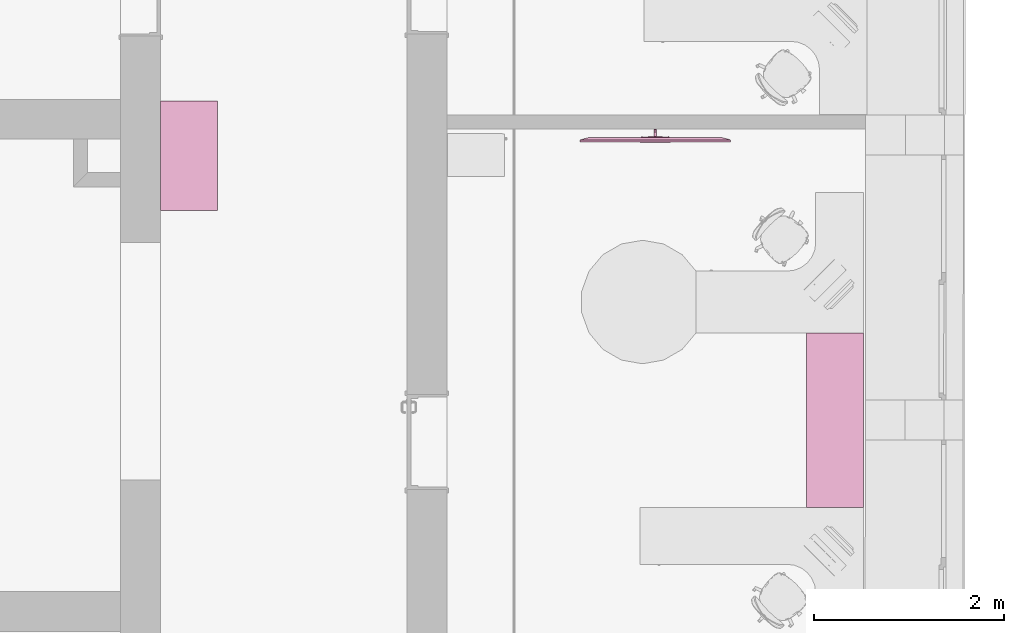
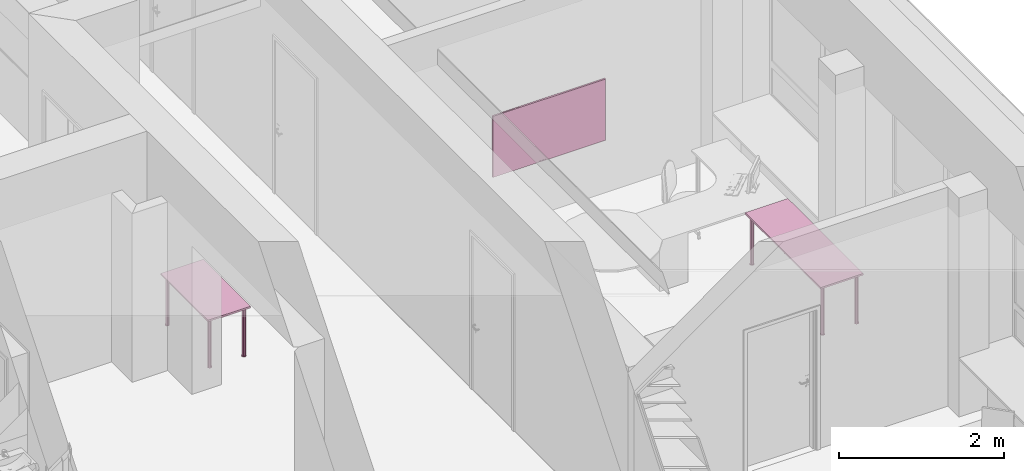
# One storey, part 149 of 194: 3 furnishings.
"""IFC2X3 building model written with IfcOpenShell, lengths in millimetres."""

from ifc_helpers import new_model, entity, si_unit, converted_unit, derived_unit, money_unit, direction, frame, origin_with_axes, place, context, subcontext, project, spatial, faceted_brep, type_object, element, save


model = new_model("IFC2X3")

# Units and contexts
model_context = context("Model", 3, precision=1e-05, world=origin_with_axes(), true_north=direction((0.0, 1.0)))
body_context = subcontext(model_context, "Body", "Model", "MODEL_VIEW")
ifc_project = project(units=[si_unit("LENGTHUNIT", "METRE", prefix="MILLI"), si_unit("AREAUNIT", "SQUARE_METRE"), si_unit("VOLUMEUNIT", "CUBIC_METRE"), converted_unit("PLANEANGLEUNIT", "DEGREE", entity("IfcPlaneAngleMeasure", 0.0174532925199), si_unit("PLANEANGLEUNIT", "RADIAN"), dimensions=[0, 0, 0, 0, 0, 0, 0]), si_unit("SOLIDANGLEUNIT", "STERADIAN"), money_unit("EUR"), converted_unit("TIMEUNIT", "Year", entity("IfcTimeMeasure", 31556926.0), si_unit("TIMEUNIT", "SECOND"), dimensions=[0, 0, 1, 0, 0, 0, 0]), si_unit("MASSUNIT", "GRAM", prefix="KILO"), si_unit("THERMODYNAMICTEMPERATUREUNIT", "DEGREE_CELSIUS"), si_unit("LUMINOUSINTENSITYUNIT", "LUMEN"), si_unit("ENERGYUNIT", "JOULE", prefix="MEGA"), derived_unit("THERMALCONDUCTANCEUNIT", [(si_unit("POWERUNIT", "WATT"), 1), (si_unit("LENGTHUNIT", "METRE"), -1), (si_unit("THERMODYNAMICTEMPERATUREUNIT", "KELVIN"), -1)]), derived_unit("SPECIFICHEATCAPACITYUNIT", [(si_unit("ENERGYUNIT", "JOULE"), 1), (si_unit("MASSUNIT", "GRAM", prefix="KILO"), -1), (si_unit("THERMODYNAMICTEMPERATUREUNIT", "KELVIN"), -1)]), derived_unit("MASSDENSITYUNIT", [(si_unit("MASSUNIT", "GRAM", prefix="KILO"), 1), (si_unit("VOLUMEUNIT", "CUBIC_METRE"), -1)])], contexts=[model_context])

# Site, building, storey
site_placement = place(None, origin_with_axes())
site = spatial("IfcSite", under=ifc_project, at=site_placement, Name="Site", CompositionType="ELEMENT")
building_placement = place(site_placement, origin_with_axes())
building = spatial("IfcBuilding", under=site, at=building_placement, Name="Building", CompositionType="ELEMENT")
storey_placement = place(building_placement, frame((0.0, 0.0, 3000.0), z_axis=(0.0, 0.0, 1.0), x_axis=(1.0, 0.0, 0.0)))
storey = spatial("IfcBuildingStorey", under=building, at=storey_placement, Name="2 KORRUS", CompositionType="ELEMENT", Elevation=3000.0)

# Furnishings
furnishing_element_type_1 = type_object("IfcFurnishingElementType", Name="Flat Panel TV 22")
furnishing_1_placement = place(storey_placement, frame((41559.6671175, 13452.4926833, 886.409781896), z_axis=(0.0, 0.0, 1.0), x_axis=(0.999999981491, 0.000192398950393, 0.0)))
element("IfcFurnishingElement", 1, at=furnishing_1_placement, inside=storey, type_object=furnishing_element_type_1, Name="FU - 002", context=body_context, shape_type="Brep", body=[
    faceted_brep([(716.344350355, 60.0, 528.881197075), (716.344350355, 50.0, 528.881197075), (866.344350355, 50.0, 528.881197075), (866.344350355, 60.0, 528.881197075), (716.344350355, 60.0, 378.881197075), (716.344350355, 50.0, 378.881197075), (866.344350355, 50.0, 378.881197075), (866.344350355, 60.0, 378.881197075)], [[[0, 1, 2, 3]], [[4, 5, 1, 0]], [[1, 5, 6, 2]], [[3, 2, 6, 7]], [[0, 3, 7, 4]], [[7, 6, 5, 4]]]),
    faceted_brep([(641.344350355, 55.0, 358.881197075), (641.344350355, 50.0, 358.881197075), (641.344350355, 50.0, 378.881197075), (641.344350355, 55.0, 378.881197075), (941.344350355, 55.0, 358.881197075), (941.344350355, 50.0, 358.881197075), (941.344350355, 50.0, 378.881197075), (941.344350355, 55.0, 378.881197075)], [[[0, 1, 2, 3]], [[4, 5, 1, 0]], [[1, 5, 6, 2]], [[3, 2, 6, 7]], [[0, 3, 7, 4]], [[7, 6, 5, 4]]]),
    faceted_brep([(641.344350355, 55.0, 548.881197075), (641.344350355, 55.0, 528.881197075), (641.344350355, 50.0, 528.881197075), (641.344350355, 50.0, 548.881197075), (941.344350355, 55.0, 548.881197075), (941.344350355, 55.0, 528.881197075), (941.344350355, 50.0, 528.881197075), (941.344350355, 50.0, 548.881197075)], [[[0, 1, 2, 3]], [[0, 4, 5, 1]], [[1, 5, 6, 2]], [[3, 2, 6, 7]], [[4, 0, 3, 7]], [[5, 4, 7, 6]]]),
    faceted_brep([(656.344350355, 60.0, 341.381197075), (646.344350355, 60.0, 341.381197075), (646.344350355, 60.0, 566.381197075), (656.344350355, 60.0, 566.381197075), (656.344350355, 50.0, 303.881197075), (646.344350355, 50.0, 303.881197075), (646.344350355, 50.0, 603.881197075), (656.344350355, 50.0, 603.881197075)], [[[0, 1, 2, 3]], [[4, 5, 1, 0]], [[1, 5, 6, 2]], [[3, 2, 6, 7]], [[0, 3, 7, 4]], [[7, 6, 5, 4]]]),
    faceted_brep([(926.344350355, 60.0, 341.381197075), (926.344350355, 60.0, 566.381197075), (936.344350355, 60.0, 566.381197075), (936.344350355, 60.0, 341.381197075), (926.344350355, 50.0, 303.881197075), (926.344350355, 50.0, 603.881197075), (936.344350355, 50.0, 603.881197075), (936.344350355, 50.0, 303.881197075)], [[[0, 1, 2, 3]], [[0, 4, 5, 1]], [[1, 5, 6, 2]], [[3, 2, 6, 7]], [[4, 0, 3, 7]], [[5, 4, 7, 6]]]),
    faceted_brep([(803.844350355, 93.75, 466.381197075), (803.844350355, 93.75, 416.381197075), (803.090508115, 98.0252517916, 416.381197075), (803.090508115, 98.0252517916, 466.381197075), (803.090508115, 89.4747482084, 466.381197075), (803.090508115, 89.4747482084, 416.381197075), (800.919905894, 85.7151548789, 416.381197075), (797.594350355, 82.9246824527, 416.381197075), (793.514952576, 81.4399030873, 416.381197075), (789.173748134, 81.4399030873, 416.381197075), (785.094350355, 82.9246824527, 416.381197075), (781.768794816, 85.7151548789, 416.381197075), (779.598192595, 89.4747482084, 416.381197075), (778.844350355, 93.75, 416.381197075), (779.598192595, 98.0252517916, 416.381197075), (781.768794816, 101.784845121, 416.381197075), (785.094350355, 104.575317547, 416.381197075), (789.173748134, 106.060096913, 416.381197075), (793.514952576, 106.060096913, 416.381197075), (797.594350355, 104.575317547, 416.381197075), (800.919905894, 101.784845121, 416.381197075), (800.919905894, 101.784845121, 466.381197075), (797.594350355, 104.575317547, 466.381197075), (793.514952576, 106.060096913, 466.381197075), (789.173748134, 106.060096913, 466.381197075), (785.094350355, 104.575317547, 466.381197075), (781.768794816, 101.784845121, 466.381197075), (779.598192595, 98.0252517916, 466.381197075), (778.844350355, 93.75, 466.381197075), (779.598192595, 89.4747482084, 466.381197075), (781.768794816, 85.7151548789, 466.381197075), (785.094350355, 82.9246824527, 466.381197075), (789.173748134, 81.4399030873, 466.381197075), (793.514952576, 81.4399030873, 466.381197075), (797.594350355, 82.9246824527, 466.381197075), (800.919905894, 85.7151548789, 466.381197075)], [[[0, 1, 2, 3]], [[4, 5, 1, 0]], [[1, 5, 6, 7, 8, 9, 10, 11, 12, 13, 14, 15, 16, 17, 18, 19, 20, 2]], [[3, 2, 20, 21]], [[0, 3, 21, 22, 23, 24, 25, 26, 27, 28, 29, 30, 31, 32, 33, 34, 35, 4]], [[35, 6, 5, 4]], [[34, 7, 6, 35]], [[33, 8, 7, 34]], [[32, 9, 8, 33]], [[31, 10, 9, 32]], [[30, 11, 10, 31]], [[29, 12, 11, 30]], [[28, 13, 12, 29]], [[27, 14, 13, 28]], [[26, 15, 14, 27]], [[25, 16, 15, 26]], [[24, 17, 16, 25]], [[23, 18, 17, 24]], [[22, 19, 18, 23]], [[21, 20, 19, 22]]]),
    faceted_brep([(803.844350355, 93.75, 441.381197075), (803.844350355, 93.75, 466.381197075), (803.844350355, 60.0, 466.381197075), (803.844350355, 60.0, 441.381197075), (803.090508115, 89.4747482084, 466.381197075), (803.090508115, 89.4747482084, 441.381197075), (779.598192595, 89.4747482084, 466.381197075), (778.844350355, 93.75, 466.381197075), (778.844350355, 60.0, 466.381197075), (800.919905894, 85.7151548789, 466.381197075), (797.594350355, 82.9246824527, 466.381197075), (793.514952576, 81.4399030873, 466.381197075), (789.173748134, 81.4399030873, 466.381197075), (785.094350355, 82.9246824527, 466.381197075), (781.768794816, 85.7151548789, 466.381197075), (778.844350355, 60.0, 441.381197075), (778.844350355, 93.75, 441.381197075), (779.598192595, 89.4747482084, 441.381197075), (781.768794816, 85.7151548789, 441.381197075), (785.094350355, 82.9246824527, 441.381197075), (789.173748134, 81.4399030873, 441.381197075), (793.514952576, 81.4399030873, 441.381197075), (797.594350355, 82.9246824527, 441.381197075), (800.919905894, 85.7151548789, 441.381197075)], [[[0, 1, 2, 3]], [[4, 1, 0, 5]], [[6, 7, 8, 2, 1, 4, 9, 10, 11, 12, 13, 14]], [[3, 2, 8, 15]], [[5, 0, 3, 15, 16, 17, 18, 19, 20, 21, 22, 23]], [[9, 4, 5, 23]], [[7, 6, 17, 16]], [[7, 16, 15, 8]], [[10, 9, 23, 22]], [[11, 10, 22, 21]], [[12, 11, 21, 20]], [[13, 12, 20, 19]], [[14, 13, 19, 18]], [[6, 14, 18, 17]]]),
    faceted_brep([(800.919905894, 101.784845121, 441.381197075), (803.090508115, 98.0252517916, 441.381197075), (803.844350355, 93.75, 441.381197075), (803.844350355, 127.5, 441.381197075), (778.844350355, 127.5, 441.381197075), (778.844350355, 93.75, 441.381197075), (779.598192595, 98.0252517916, 441.381197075), (781.768794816, 101.784845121, 441.381197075), (785.094350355, 104.575317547, 441.381197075), (789.173748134, 106.060096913, 441.381197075), (793.514952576, 106.060096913, 441.381197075), (797.594350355, 104.575317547, 441.381197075), (800.919905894, 101.784845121, 416.381197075), (803.090508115, 98.0252517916, 416.381197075), (803.844350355, 93.75, 416.381197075), (803.844350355, 127.5, 416.381197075), (778.844350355, 127.5, 416.381197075), (778.844350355, 93.75, 416.381197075), (779.598192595, 98.0252517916, 416.381197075), (781.768794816, 101.784845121, 416.381197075), (785.094350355, 104.575317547, 416.381197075), (789.173748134, 106.060096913, 416.381197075), (793.514952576, 106.060096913, 416.381197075), (797.594350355, 104.575317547, 416.381197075)], [[[0, 1, 2, 3, 4, 5, 6, 7, 8, 9, 10, 11]], [[1, 0, 12, 13]], [[2, 1, 13, 14]], [[2, 14, 15, 3]], [[4, 3, 15, 16]], [[17, 5, 4, 16]], [[6, 5, 17, 18]], [[7, 6, 18, 19]], [[8, 7, 19, 20]], [[9, 8, 20, 21]], [[10, 9, 21, 22]], [[11, 10, 22, 23]], [[0, 11, 23, 12]], [[18, 17, 16, 15, 14, 13, 12, 23, 22, 21, 20, 19]]]),
    faceted_brep([(776.344350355, 127.5, 353.881197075), (776.344350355, 137.5, 353.881197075), (806.344350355, 137.5, 353.881197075), (806.344350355, 127.5, 353.881197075), (776.344350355, 127.5, 503.881197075), (776.344350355, 137.5, 503.881197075), (806.344350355, 137.5, 503.881197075), (806.344350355, 127.5, 503.881197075)], [[[0, 1, 2, 3]], [[4, 5, 1, 0]], [[1, 5, 6, 2]], [[3, 2, 6, 7]], [[0, 3, 7, 4]], [[7, 6, 5, 4]]]),
    faceted_brep([(1562.68870071, 0.0, 20.0), (1562.68870071, 1.0, 20.0), (1562.68870071, 1.0, 887.76239415), (1562.68870071, 0.0, 887.76239415), (20.0, 0.0, 20.0), (20.0, 1.0, 20.0), (20.0, 1.0, 887.76239415), (20.0, 0.0, 887.76239415)], [[[0, 1, 2, 3]], [[4, 5, 1, 0]], [[1, 5, 6, 2]], [[3, 2, 6, 7]], [[0, 3, 7, 4]], [[7, 6, 5, 4]]]),
    faceted_brep([(1582.68870071, 0.0, 907.76239415), (0.0, 0.0, 907.76239415), (0.0, 0.0, 0.0), (1582.68870071, 0.0, 0.0), (20.0, 0.0, 20.0), (20.0, 0.0, 887.76239415), (1562.68870071, 0.0, 887.76239415), (1562.68870071, 0.0, 20.0), (1582.68870095, 25.0, 907.762393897), (-3.89516308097e-07, 25.0, 907.762393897), (-3.89516308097e-07, 25.0, -3.89516363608e-07), (1582.68870095, 25.0, -3.89516363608e-07), (20.0, 1.0, 20.0), (20.0, 1.0, 887.76239415), (1562.68870071, 1.0, 887.76239415), (1562.68870071, 1.0, 20.0), (1489.38742937, 50.0000003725, 814.461122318), (93.30127119, 50.0000003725, 814.461122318), (93.30127119, 50.0000003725, 93.30127119), (1489.38742937, 50.0000003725, 93.30127119)], [[[0, 1, 2, 3], [4, 5, 6, 7]], [[8, 9, 1, 0]], [[9, 10, 2, 1]], [[10, 11, 3, 2]], [[11, 8, 0, 3]], [[5, 4, 12, 13]], [[6, 5, 13, 14]], [[7, 6, 14, 15]], [[4, 7, 15, 12]], [[16, 17, 9, 8]], [[17, 18, 10, 9]], [[18, 19, 11, 10]], [[19, 16, 8, 11]], [[14, 13, 12, 15]], [[16, 19, 18, 17]]]),
    faceted_brep([(791.344350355, -0.8, 5.0), (791.344350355, 0.0, 5.0), (807.171237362, 0.0, 10.0), (807.171237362, -0.8, 10.0), (775.517463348, -0.8, 10.0), (775.517463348, 0.0, 10.0), (633.075480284, 0.0, 15.0), (949.613220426, 0.0, 15.0), (949.613220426, -0.8, 15.0), (633.075480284, -0.8, 15.0)], [[[0, 1, 2, 3]], [[4, 5, 1, 0]], [[1, 5, 6, 7, 2]], [[3, 2, 7, 8]], [[0, 3, 8, 9, 4]], [[9, 6, 5, 4]], [[8, 7, 6, 9]]]),
    faceted_brep([(211.025160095, 10.0, 907.76239415), (211.025160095, 10.0, 909.36239415), (105.512580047, 10.0, 909.36239415), (105.512580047, 10.0, 907.76239415), (211.025160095, 16.25, 907.76239415), (211.025160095, 16.25, 909.36239415), (105.512580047, 16.25, 909.36239415), (105.512580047, 16.25, 907.76239415)], [[[0, 1, 2, 3]], [[0, 4, 5, 1]], [[1, 5, 6, 2]], [[2, 6, 7, 3]], [[3, 7, 4, 0]], [[7, 6, 5, 4]]]),
    faceted_brep([(324.074353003, 10.0, 907.76239415), (324.074353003, 10.0, 909.36239415), (218.561772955, 10.0, 909.36239415), (218.561772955, 10.0, 907.76239415), (324.074353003, 16.25, 907.76239415), (324.074353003, 16.25, 909.36239415), (218.561772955, 16.25, 909.36239415), (218.561772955, 16.25, 907.76239415)], [[[0, 1, 2, 3]], [[0, 4, 5, 1]], [[1, 5, 6, 2]], [[2, 6, 7, 3]], [[3, 7, 4, 0]], [[7, 6, 5, 4]]]),
    faceted_brep([(384.367255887, 10.0, 907.76239415), (384.367255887, 10.0, 909.36239415), (331.610965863, 10.0, 909.36239415), (331.610965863, 10.0, 907.76239415), (384.367255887, 16.25, 907.76239415), (384.367255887, 16.25, 909.36239415), (331.610965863, 16.25, 909.36239415), (331.610965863, 16.25, 907.76239415)], [[[0, 1, 2, 3]], [[0, 4, 5, 1]], [[1, 5, 6, 2]], [[2, 6, 7, 3]], [[3, 7, 4, 0]], [[7, 6, 5, 4]]]),
])
furnishing_element_type_2 = type_object("IfcFurnishingElementType", Name="Model Element 160")
furnishing_2_placement = place(storey_placement, frame((43942.2465405, 11445.6425048, 0.0), z_axis=(0.0, 0.0, 1.0), x_axis=(0.0, -1.0, 0.0)))
element("IfcFurnishingElement", 2, at=furnishing_2_placement, inside=storey, type_object=furnishing_element_type_2, Name="FU - 007", context=body_context, shape_type="Brep", body=[
    faceted_brep([(0.0, 0.0, 725.0), (1835.57550436, 0.0, 725.0), (1835.57550436, 0.0, 750.0), (0.0, 0.0, 750.0), (0.0, 600.0, 725.0), (1835.57550436, 600.0, 725.0), (1835.57550436, 600.0, 750.0), (0.0, 600.0, 750.0)], [[[0, 1, 2, 3]], [[0, 4, 5, 1]], [[1, 5, 6, 2]], [[3, 2, 6, 7]], [[4, 0, 3, 7]], [[5, 4, 7, 6]]]),
    faceted_brep([(77.6776695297, 77.6776695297, 10.0), (85.0, 60.0, 10.0), (77.6776695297, 42.3223304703, 10.0), (60.0, 35.0, 10.0), (42.3223304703, 42.3223304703, 10.0), (35.0, 60.0, 10.0), (42.3223304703, 77.6776695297, 10.0), (60.0, 85.0, 10.0), (77.6776695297, 77.6776695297, 725.0), (85.0, 60.0, 725.0), (77.6776695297, 42.3223304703, 725.0), (60.0, 35.0, 725.0), (42.3223304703, 42.3223304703, 725.0), (35.0, 60.0, 725.0), (42.3223304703, 77.6776695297, 725.0), (60.0, 85.0, 725.0)], [[[0, 1, 2, 3, 4, 5, 6, 7]], [[1, 0, 8, 9]], [[2, 1, 9, 10]], [[3, 2, 10, 11]], [[4, 3, 11, 12]], [[5, 4, 12, 13]], [[6, 5, 13, 14]], [[7, 6, 14, 15]], [[0, 7, 15, 8]], [[8, 15, 14, 13, 12, 11, 10, 9]]]),
    faceted_brep([(81.2132034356, 81.2132034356, 0.0), (90.0, 60.0, 0.0), (81.2132034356, 38.7867965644, 0.0), (60.0, 30.0, 0.0), (38.7867965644, 38.7867965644, 0.0), (30.0, 60.0, 0.0), (38.7867965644, 81.2132034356, 0.0), (60.0, 90.0, 0.0), (81.2132034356, 81.2132034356, 10.0), (90.0, 60.0, 10.0), (81.2132034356, 38.7867965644, 10.0), (60.0, 30.0, 10.0), (38.7867965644, 38.7867965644, 10.0), (30.0, 60.0, 10.0), (38.7867965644, 81.2132034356, 10.0), (60.0, 90.0, 10.0)], [[[0, 1, 2, 3, 4, 5, 6, 7]], [[1, 0, 8, 9]], [[2, 1, 9, 10]], [[3, 2, 10, 11]], [[4, 3, 11, 12]], [[5, 4, 12, 13]], [[6, 5, 13, 14]], [[7, 6, 14, 15]], [[0, 7, 15, 8]], [[8, 15, 14, 13, 12, 11, 10, 9]]]),
    faceted_brep([(77.6776695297, 557.67766953, 10.0), (85.0, 540.0, 10.0), (77.6776695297, 522.32233047, 10.0), (60.0, 515.0, 10.0), (42.3223304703, 522.32233047, 10.0), (35.0, 540.0, 10.0), (42.3223304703, 557.67766953, 10.0), (60.0, 565.0, 10.0), (77.6776695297, 557.67766953, 725.0), (85.0, 540.0, 725.0), (77.6776695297, 522.32233047, 725.0), (60.0, 515.0, 725.0), (42.3223304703, 522.32233047, 725.0), (35.0, 540.0, 725.0), (42.3223304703, 557.67766953, 725.0), (60.0, 565.0, 725.0)], [[[0, 1, 2, 3, 4, 5, 6, 7]], [[1, 0, 8, 9]], [[2, 1, 9, 10]], [[3, 2, 10, 11]], [[4, 3, 11, 12]], [[5, 4, 12, 13]], [[6, 5, 13, 14]], [[7, 6, 14, 15]], [[0, 7, 15, 8]], [[8, 15, 14, 13, 12, 11, 10, 9]]]),
    faceted_brep([(81.2132034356, 561.213203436, 0.0), (90.0, 540.0, 0.0), (81.2132034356, 518.786796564, 0.0), (60.0, 510.0, 0.0), (38.7867965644, 518.786796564, 0.0), (30.0, 540.0, 0.0), (38.7867965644, 561.213203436, 0.0), (60.0, 570.0, 0.0), (81.2132034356, 561.213203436, 10.0), (90.0, 540.0, 10.0), (81.2132034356, 518.786796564, 10.0), (60.0, 510.0, 10.0), (38.7867965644, 518.786796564, 10.0), (30.0, 540.0, 10.0), (38.7867965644, 561.213203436, 10.0), (60.0, 570.0, 10.0)], [[[0, 1, 2, 3, 4, 5, 6, 7]], [[1, 0, 8, 9]], [[2, 1, 9, 10]], [[3, 2, 10, 11]], [[4, 3, 11, 12]], [[5, 4, 12, 13]], [[6, 5, 13, 14]], [[7, 6, 14, 15]], [[0, 7, 15, 8]], [[8, 15, 14, 13, 12, 11, 10, 9]]]),
    faceted_brep([(1793.25317389, 77.6776695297, 10.0), (1800.57550436, 60.0, 10.0), (1793.25317389, 42.3223304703, 10.0), (1775.57550436, 35.0, 10.0), (1757.89783483, 42.3223304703, 10.0), (1750.57550436, 60.0, 10.0), (1757.89783483, 77.6776695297, 10.0), (1775.57550436, 85.0, 10.0), (1793.25317389, 77.6776695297, 725.0), (1800.57550436, 60.0, 725.0), (1793.25317389, 42.3223304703, 725.0), (1775.57550436, 35.0, 725.0), (1757.89783483, 42.3223304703, 725.0), (1750.57550436, 60.0, 725.0), (1757.89783483, 77.6776695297, 725.0), (1775.57550436, 85.0, 725.0)], [[[0, 1, 2, 3, 4, 5, 6, 7]], [[1, 0, 8, 9]], [[2, 1, 9, 10]], [[3, 2, 10, 11]], [[4, 3, 11, 12]], [[5, 4, 12, 13]], [[6, 5, 13, 14]], [[7, 6, 14, 15]], [[0, 7, 15, 8]], [[8, 15, 14, 13, 12, 11, 10, 9]]]),
    faceted_brep([(1796.7887078, 81.2132034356, 0.0), (1805.57550436, 60.0, 0.0), (1796.7887078, 38.7867965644, 0.0), (1775.57550436, 30.0, 0.0), (1754.36230093, 38.7867965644, 0.0), (1745.57550436, 60.0, 0.0), (1754.36230093, 81.2132034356, 0.0), (1775.57550436, 90.0, 0.0), (1796.7887078, 81.2132034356, 10.0), (1805.57550436, 60.0, 10.0), (1796.7887078, 38.7867965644, 10.0), (1775.57550436, 30.0, 10.0), (1754.36230093, 38.7867965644, 10.0), (1745.57550436, 60.0, 10.0), (1754.36230093, 81.2132034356, 10.0), (1775.57550436, 90.0, 10.0)], [[[0, 1, 2, 3, 4, 5, 6, 7]], [[1, 0, 8, 9]], [[2, 1, 9, 10]], [[3, 2, 10, 11]], [[4, 3, 11, 12]], [[5, 4, 12, 13]], [[6, 5, 13, 14]], [[7, 6, 14, 15]], [[0, 7, 15, 8]], [[8, 15, 14, 13, 12, 11, 10, 9]]]),
    faceted_brep([(1793.25317389, 557.67766953, 10.0), (1800.57550436, 540.0, 10.0), (1793.25317389, 522.32233047, 10.0), (1775.57550436, 515.0, 10.0), (1757.89783483, 522.32233047, 10.0), (1750.57550436, 540.0, 10.0), (1757.89783483, 557.67766953, 10.0), (1775.57550436, 565.0, 10.0), (1793.25317389, 557.67766953, 725.0), (1800.57550436, 540.0, 725.0), (1793.25317389, 522.32233047, 725.0), (1775.57550436, 515.0, 725.0), (1757.89783483, 522.32233047, 725.0), (1750.57550436, 540.0, 725.0), (1757.89783483, 557.67766953, 725.0), (1775.57550436, 565.0, 725.0)], [[[0, 1, 2, 3, 4, 5, 6, 7]], [[1, 0, 8, 9]], [[2, 1, 9, 10]], [[3, 2, 10, 11]], [[4, 3, 11, 12]], [[5, 4, 12, 13]], [[6, 5, 13, 14]], [[7, 6, 14, 15]], [[0, 7, 15, 8]], [[8, 15, 14, 13, 12, 11, 10, 9]]]),
    faceted_brep([(1796.7887078, 561.213203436, 0.0), (1805.57550436, 540.0, 0.0), (1796.7887078, 518.786796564, 0.0), (1775.57550436, 510.0, 0.0), (1754.36230093, 518.786796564, 0.0), (1745.57550436, 540.0, 0.0), (1754.36230093, 561.213203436, 0.0), (1775.57550436, 570.0, 0.0), (1796.7887078, 561.213203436, 10.0), (1805.57550436, 540.0, 10.0), (1796.7887078, 518.786796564, 10.0), (1775.57550436, 510.0, 10.0), (1754.36230093, 518.786796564, 10.0), (1745.57550436, 540.0, 10.0), (1754.36230093, 561.213203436, 10.0), (1775.57550436, 570.0, 10.0)], [[[0, 1, 2, 3, 4, 5, 6, 7]], [[1, 0, 8, 9]], [[2, 1, 9, 10]], [[3, 2, 10, 11]], [[4, 3, 11, 12]], [[5, 4, 12, 13]], [[6, 5, 13, 14]], [[7, 6, 14, 15]], [[0, 7, 15, 8]], [[8, 15, 14, 13, 12, 11, 10, 9]]]),
])
furnishing_element_type_3 = type_object("IfcFurnishingElementType", Name="Model Element 1")
furnishing_3_placement = place(storey_placement, frame((37744.8833089, 12734.024222, 0.0), z_axis=(0.0, 0.0, 1.0), x_axis=(0.0, 1.0, 0.0)))
element("IfcFurnishingElement", 3, at=furnishing_3_placement, inside=storey, type_object=furnishing_element_type_3, Name="FU - 007", context=body_context, shape_type="Brep", body=[
    faceted_brep([(0.0, 0.0, 725.0), (1150.0, 0.0, 725.0), (1150.0, 0.0, 750.0), (0.0, 0.0, 750.0), (0.0, 600.0, 725.0), (1150.0, 600.0, 725.0), (1150.0, 600.0, 750.0), (0.0, 600.0, 750.0)], [[[0, 1, 2, 3]], [[0, 4, 5, 1]], [[1, 5, 6, 2]], [[3, 2, 6, 7]], [[4, 0, 3, 7]], [[5, 4, 7, 6]]]),
    faceted_brep([(77.6776695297, 77.6776695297, 10.0), (85.0, 60.0, 10.0), (77.6776695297, 42.3223304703, 10.0), (60.0, 35.0, 10.0), (42.3223304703, 42.3223304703, 10.0), (35.0, 60.0, 10.0), (42.3223304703, 77.6776695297, 10.0), (60.0, 85.0, 10.0), (77.6776695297, 77.6776695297, 725.0), (85.0, 60.0, 725.0), (77.6776695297, 42.3223304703, 725.0), (60.0, 35.0, 725.0), (42.3223304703, 42.3223304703, 725.0), (35.0, 60.0, 725.0), (42.3223304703, 77.6776695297, 725.0), (60.0, 85.0, 725.0)], [[[0, 1, 2, 3, 4, 5, 6, 7]], [[1, 0, 8, 9]], [[2, 1, 9, 10]], [[3, 2, 10, 11]], [[4, 3, 11, 12]], [[5, 4, 12, 13]], [[6, 5, 13, 14]], [[7, 6, 14, 15]], [[0, 7, 15, 8]], [[8, 15, 14, 13, 12, 11, 10, 9]]]),
    faceted_brep([(81.2132034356, 81.2132034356, 0.0), (90.0, 60.0, 0.0), (81.2132034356, 38.7867965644, 0.0), (60.0, 30.0, 0.0), (38.7867965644, 38.7867965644, 0.0), (30.0, 60.0, 0.0), (38.7867965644, 81.2132034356, 0.0), (60.0, 90.0, 0.0), (81.2132034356, 81.2132034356, 10.0), (90.0, 60.0, 10.0), (81.2132034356, 38.7867965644, 10.0), (60.0, 30.0, 10.0), (38.7867965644, 38.7867965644, 10.0), (30.0, 60.0, 10.0), (38.7867965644, 81.2132034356, 10.0), (60.0, 90.0, 10.0)], [[[0, 1, 2, 3, 4, 5, 6, 7]], [[1, 0, 8, 9]], [[2, 1, 9, 10]], [[3, 2, 10, 11]], [[4, 3, 11, 12]], [[5, 4, 12, 13]], [[6, 5, 13, 14]], [[7, 6, 14, 15]], [[0, 7, 15, 8]], [[8, 15, 14, 13, 12, 11, 10, 9]]]),
    faceted_brep([(77.6776695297, 557.67766953, 10.0), (85.0, 540.0, 10.0), (77.6776695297, 522.32233047, 10.0), (60.0, 515.0, 10.0), (42.3223304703, 522.32233047, 10.0), (35.0, 540.0, 10.0), (42.3223304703, 557.67766953, 10.0), (60.0, 565.0, 10.0), (77.6776695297, 557.67766953, 725.0), (85.0, 540.0, 725.0), (77.6776695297, 522.32233047, 725.0), (60.0, 515.0, 725.0), (42.3223304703, 522.32233047, 725.0), (35.0, 540.0, 725.0), (42.3223304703, 557.67766953, 725.0), (60.0, 565.0, 725.0)], [[[0, 1, 2, 3, 4, 5, 6, 7]], [[1, 0, 8, 9]], [[2, 1, 9, 10]], [[3, 2, 10, 11]], [[4, 3, 11, 12]], [[5, 4, 12, 13]], [[6, 5, 13, 14]], [[7, 6, 14, 15]], [[0, 7, 15, 8]], [[8, 15, 14, 13, 12, 11, 10, 9]]]),
    faceted_brep([(81.2132034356, 561.213203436, 0.0), (90.0, 540.0, 0.0), (81.2132034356, 518.786796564, 0.0), (60.0, 510.0, 0.0), (38.7867965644, 518.786796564, 0.0), (30.0, 540.0, 0.0), (38.7867965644, 561.213203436, 0.0), (60.0, 570.0, 0.0), (81.2132034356, 561.213203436, 10.0), (90.0, 540.0, 10.0), (81.2132034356, 518.786796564, 10.0), (60.0, 510.0, 10.0), (38.7867965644, 518.786796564, 10.0), (30.0, 540.0, 10.0), (38.7867965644, 561.213203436, 10.0), (60.0, 570.0, 10.0)], [[[0, 1, 2, 3, 4, 5, 6, 7]], [[1, 0, 8, 9]], [[2, 1, 9, 10]], [[3, 2, 10, 11]], [[4, 3, 11, 12]], [[5, 4, 12, 13]], [[6, 5, 13, 14]], [[7, 6, 14, 15]], [[0, 7, 15, 8]], [[8, 15, 14, 13, 12, 11, 10, 9]]]),
    faceted_brep([(1107.67766953, 77.6776695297, 10.0), (1115.0, 60.0, 10.0), (1107.67766953, 42.3223304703, 10.0), (1090.0, 35.0, 10.0), (1072.32233047, 42.3223304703, 10.0), (1065.0, 60.0, 10.0), (1072.32233047, 77.6776695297, 10.0), (1090.0, 85.0, 10.0), (1107.67766953, 77.6776695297, 725.0), (1115.0, 60.0, 725.0), (1107.67766953, 42.3223304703, 725.0), (1090.0, 35.0, 725.0), (1072.32233047, 42.3223304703, 725.0), (1065.0, 60.0, 725.0), (1072.32233047, 77.6776695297, 725.0), (1090.0, 85.0, 725.0)], [[[0, 1, 2, 3, 4, 5, 6, 7]], [[1, 0, 8, 9]], [[2, 1, 9, 10]], [[3, 2, 10, 11]], [[4, 3, 11, 12]], [[5, 4, 12, 13]], [[6, 5, 13, 14]], [[7, 6, 14, 15]], [[0, 7, 15, 8]], [[8, 15, 14, 13, 12, 11, 10, 9]]]),
    faceted_brep([(1111.21320344, 81.2132034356, 0.0), (1120.0, 60.0, 0.0), (1111.21320344, 38.7867965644, 0.0), (1090.0, 30.0, 0.0), (1068.78679656, 38.7867965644, 0.0), (1060.0, 60.0, 0.0), (1068.78679656, 81.2132034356, 0.0), (1090.0, 90.0, 0.0), (1111.21320344, 81.2132034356, 10.0), (1120.0, 60.0, 10.0), (1111.21320344, 38.7867965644, 10.0), (1090.0, 30.0, 10.0), (1068.78679656, 38.7867965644, 10.0), (1060.0, 60.0, 10.0), (1068.78679656, 81.2132034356, 10.0), (1090.0, 90.0, 10.0)], [[[0, 1, 2, 3, 4, 5, 6, 7]], [[1, 0, 8, 9]], [[2, 1, 9, 10]], [[3, 2, 10, 11]], [[4, 3, 11, 12]], [[5, 4, 12, 13]], [[6, 5, 13, 14]], [[7, 6, 14, 15]], [[0, 7, 15, 8]], [[8, 15, 14, 13, 12, 11, 10, 9]]]),
    faceted_brep([(1107.67766953, 557.67766953, 10.0), (1115.0, 540.0, 10.0), (1107.67766953, 522.32233047, 10.0), (1090.0, 515.0, 10.0), (1072.32233047, 522.32233047, 10.0), (1065.0, 540.0, 10.0), (1072.32233047, 557.67766953, 10.0), (1090.0, 565.0, 10.0), (1107.67766953, 557.67766953, 725.0), (1115.0, 540.0, 725.0), (1107.67766953, 522.32233047, 725.0), (1090.0, 515.0, 725.0), (1072.32233047, 522.32233047, 725.0), (1065.0, 540.0, 725.0), (1072.32233047, 557.67766953, 725.0), (1090.0, 565.0, 725.0)], [[[0, 1, 2, 3, 4, 5, 6, 7]], [[1, 0, 8, 9]], [[2, 1, 9, 10]], [[3, 2, 10, 11]], [[4, 3, 11, 12]], [[5, 4, 12, 13]], [[6, 5, 13, 14]], [[7, 6, 14, 15]], [[0, 7, 15, 8]], [[8, 15, 14, 13, 12, 11, 10, 9]]]),
    faceted_brep([(1111.21320344, 561.213203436, 0.0), (1120.0, 540.0, 0.0), (1111.21320344, 518.786796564, 0.0), (1090.0, 510.0, 0.0), (1068.78679656, 518.786796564, 0.0), (1060.0, 540.0, 0.0), (1068.78679656, 561.213203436, 0.0), (1090.0, 570.0, 0.0), (1111.21320344, 561.213203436, 10.0), (1120.0, 540.0, 10.0), (1111.21320344, 518.786796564, 10.0), (1090.0, 510.0, 10.0), (1068.78679656, 518.786796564, 10.0), (1060.0, 540.0, 10.0), (1068.78679656, 561.213203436, 10.0), (1090.0, 570.0, 10.0)], [[[0, 1, 2, 3, 4, 5, 6, 7]], [[1, 0, 8, 9]], [[2, 1, 9, 10]], [[3, 2, 10, 11]], [[4, 3, 11, 12]], [[5, 4, 12, 13]], [[6, 5, 13, 14]], [[7, 6, 14, 15]], [[0, 7, 15, 8]], [[8, 15, 14, 13, 12, 11, 10, 9]]]),
])

save(model, "model.ifc")
